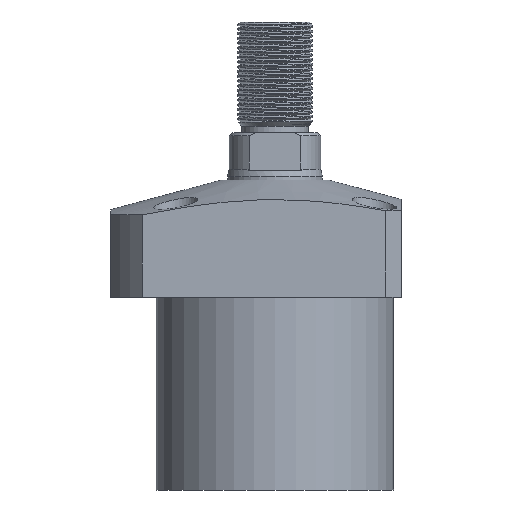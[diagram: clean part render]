
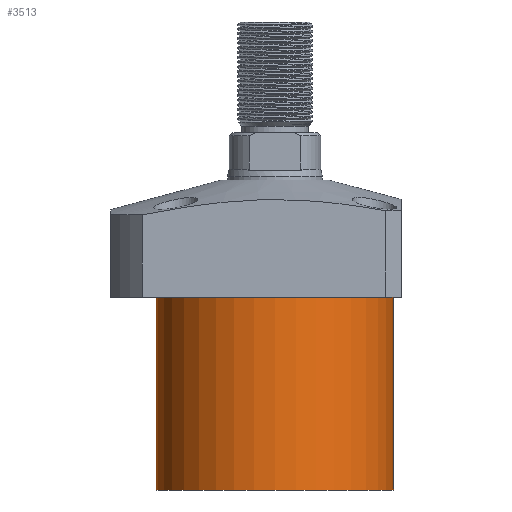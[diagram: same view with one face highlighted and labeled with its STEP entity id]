
A CAD part, front view. The second image highlights one B-rep face of the part: STEP entity #3513.
In plain terms, the highlighted cylindrical face has radius 37.5 mm (diameter 75 mm), a partial arc.
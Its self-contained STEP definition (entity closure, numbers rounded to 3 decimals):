
#98 = VERTEX_POINT ( 'NONE', #3877 ) ;
#109 = ORIENTED_EDGE ( 'NONE', *, *, #2437, .T. ) ;
#320 = VERTEX_POINT ( 'NONE', #5483 ) ;
#424 = EDGE_LOOP ( 'NONE', ( #3989, #3122, #1626, #109 ) ) ;
#768 = CARTESIAN_POINT ( 'NONE',  ( 0., 0., -79.5 ) ) ;
#828 = DIRECTION ( 'NONE',  ( 0., 0., -1. ) ) ;
#1022 = LINE ( 'NONE', #3215, #5757 ) ;
#1518 = DIRECTION ( 'NONE',  ( -1., 0., 0. ) ) ;
#1540 = VERTEX_POINT ( 'NONE', #7002 ) ;
#1615 = LINE ( 'NONE', #4533, #4604 ) ;
#1626 = ORIENTED_EDGE ( 'NONE', *, *, #7398, .T. ) ;
#2014 = AXIS2_PLACEMENT_3D ( 'NONE', #768, #828, #1518 ) ;
#2437 = EDGE_CURVE ( 'NONE', #320, #5048, #2564, .T. ) ;
#2564 = CIRCLE ( 'NONE', #7187, 37.5 ) ;
#2652 = CYLINDRICAL_SURFACE ( 'NONE', #5391, 37.5 ) ;
#3122 = ORIENTED_EDGE ( 'NONE', *, *, #4179, .F. ) ;
#3215 = CARTESIAN_POINT ( 'NONE',  ( 37.5, 0., -79.5 ) ) ;
#3236 = CIRCLE ( 'NONE', #2014, 37.5 ) ;
#3513 = ADVANCED_FACE ( 'NONE', ( #7590 ), #2652, .T. ) ;
#3825 = DIRECTION ( 'NONE',  ( 0., 0., 1. ) ) ;
#3877 = CARTESIAN_POINT ( 'NONE',  ( 37.5, 0., -79.5 ) ) ;
#3989 = ORIENTED_EDGE ( 'NONE', *, *, #7435, .F. ) ;
#4079 = DIRECTION ( 'NONE',  ( 1., 0., 0. ) ) ;
#4089 = CARTESIAN_POINT ( 'NONE',  ( -37.5, 0., -18.5 ) ) ;
#4179 = EDGE_CURVE ( 'NONE', #98, #1540, #3236, .T. ) ;
#4450 = DIRECTION ( 'NONE',  ( 0., 0., 1. ) ) ;
#4533 = CARTESIAN_POINT ( 'NONE',  ( -37.5, 0., -79.5 ) ) ;
#4604 = VECTOR ( 'NONE', #3825, 1000. ) ;
#4855 = DIRECTION ( 'NONE',  ( 0., 0., -1. ) ) ;
#5048 = VERTEX_POINT ( 'NONE', #4089 ) ;
#5391 = AXIS2_PLACEMENT_3D ( 'NONE', #7171, #6493, #4079 ) ;
#5483 = CARTESIAN_POINT ( 'NONE',  ( 37.5, 0., -18.5 ) ) ;
#5757 = VECTOR ( 'NONE', #4450, 1000. ) ;
#6493 = DIRECTION ( 'NONE',  ( 0., 0., 1. ) ) ;
#6767 = CARTESIAN_POINT ( 'NONE',  ( 0., 0., -18.5 ) ) ;
#7002 = CARTESIAN_POINT ( 'NONE',  ( -37.5, 0., -79.5 ) ) ;
#7171 = CARTESIAN_POINT ( 'NONE',  ( 0., 0., -79.5 ) ) ;
#7187 = AXIS2_PLACEMENT_3D ( 'NONE', #6767, #4855, #7396 ) ;
#7396 = DIRECTION ( 'NONE',  ( 1., 0., 0. ) ) ;
#7398 = EDGE_CURVE ( 'NONE', #98, #320, #1022, .T. ) ;
#7435 = EDGE_CURVE ( 'NONE', #1540, #5048, #1615, .T. ) ;
#7590 = FACE_OUTER_BOUND ( 'NONE', #424, .T. ) ;
